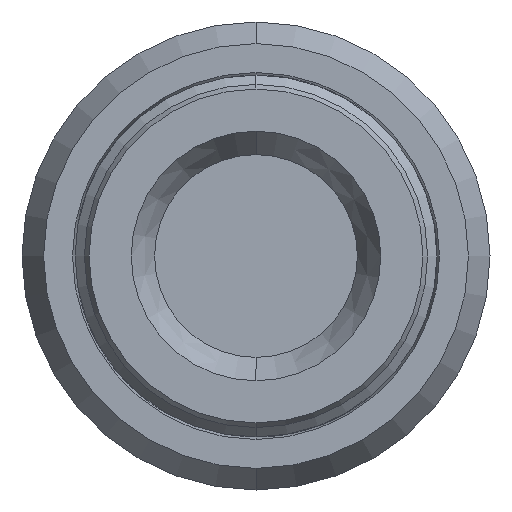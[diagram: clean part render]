
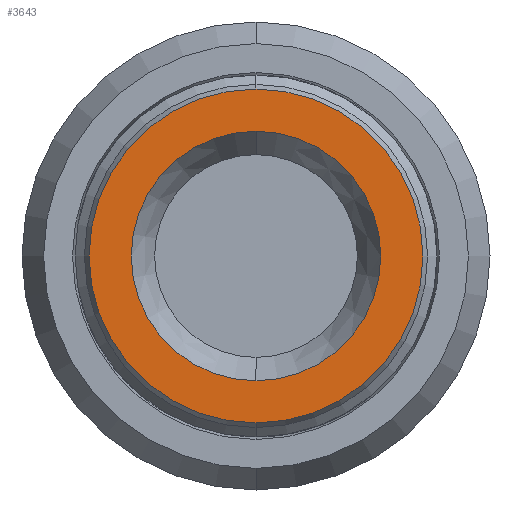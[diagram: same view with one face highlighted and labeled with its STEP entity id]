
A CAD part, front view. The second image highlights one B-rep face of the part: STEP entity #3643.
In plain terms, the highlighted planar face has unit normal (0, -1, 0).
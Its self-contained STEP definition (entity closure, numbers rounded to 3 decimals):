
#78 = ORIENTED_EDGE ( 'NONE', *, *, #3634, .T. ) ;
#193 = VERTEX_POINT ( 'NONE', #1052 ) ;
#532 = ORIENTED_EDGE ( 'NONE', *, *, #1355, .T. ) ;
#546 = AXIS2_PLACEMENT_3D ( 'NONE', #921, #917, #912 ) ;
#761 = AXIS2_PLACEMENT_3D ( 'NONE', #1524, #1523, #1518 ) ;
#912 = DIRECTION ( 'NONE',  ( 0., 0., -1. ) ) ;
#917 = DIRECTION ( 'NONE',  ( 0., 1., 0. ) ) ;
#921 = CARTESIAN_POINT ( 'NONE',  ( 0., -104.9, 0. ) ) ;
#946 = VERTEX_POINT ( 'NONE', #2633 ) ;
#1052 = CARTESIAN_POINT ( 'NONE',  ( 0., -104.9, 26.75 ) ) ;
#1185 = AXIS2_PLACEMENT_3D ( 'NONE', #3613, #3600, #3592 ) ;
#1355 = EDGE_CURVE ( 'NONE', #946, #2078, #1689, .T. ) ;
#1518 = DIRECTION ( 'NONE',  ( 0., 0., -1. ) ) ;
#1523 = DIRECTION ( 'NONE',  ( 0., 1., 0. ) ) ;
#1524 = CARTESIAN_POINT ( 'NONE',  ( 0., -104.9, 0. ) ) ;
#1572 = ORIENTED_EDGE ( 'NONE', *, *, #3903, .F. ) ;
#1578 = DIRECTION ( 'NONE',  ( 0., 0., -1. ) ) ;
#1584 = DIRECTION ( 'NONE',  ( 0., 1., 0. ) ) ;
#1592 = CARTESIAN_POINT ( 'NONE',  ( 0., -104.9, 0. ) ) ;
#1595 = PLANE ( 'NONE',  #761 ) ;
#1613 = EDGE_LOOP ( 'NONE', ( #78, #532 ) ) ;
#1622 = CARTESIAN_POINT ( 'NONE',  ( 0., -104.9, 20. ) ) ;
#1689 = CIRCLE ( 'NONE', #2420, 20. ) ;
#1697 = CARTESIAN_POINT ( 'NONE',  ( 0., -104.9, -26.75 ) ) ;
#1717 = CIRCLE ( 'NONE', #546, 26.75 ) ;
#1902 = DIRECTION ( 'NONE',  ( 0., 0., -1. ) ) ;
#1915 = DIRECTION ( 'NONE',  ( 0., 1., 0. ) ) ;
#1921 = CARTESIAN_POINT ( 'NONE',  ( 0., -104.9, 0. ) ) ;
#2054 = FACE_OUTER_BOUND ( 'NONE', #2261, .T. ) ;
#2078 = VERTEX_POINT ( 'NONE', #1622 ) ;
#2082 = CIRCLE ( 'NONE', #2659, 20. ) ;
#2097 = FACE_BOUND ( 'NONE', #1613, .T. ) ;
#2261 = EDGE_LOOP ( 'NONE', ( #2708, #1572 ) ) ;
#2420 = AXIS2_PLACEMENT_3D ( 'NONE', #1921, #1915, #1902 ) ;
#2633 = CARTESIAN_POINT ( 'NONE',  ( 0., -104.9, -20. ) ) ;
#2659 = AXIS2_PLACEMENT_3D ( 'NONE', #1592, #1584, #1578 ) ;
#2708 = ORIENTED_EDGE ( 'NONE', *, *, #2716, .F. ) ;
#2716 = EDGE_CURVE ( 'NONE', #3604, #193, #3828, .T. ) ;
#3592 = DIRECTION ( 'NONE',  ( 0., 0., -1. ) ) ;
#3600 = DIRECTION ( 'NONE',  ( 0., 1., 0. ) ) ;
#3604 = VERTEX_POINT ( 'NONE', #1697 ) ;
#3613 = CARTESIAN_POINT ( 'NONE',  ( 0., -104.9, 0. ) ) ;
#3634 = EDGE_CURVE ( 'NONE', #2078, #946, #2082, .T. ) ;
#3643 = ADVANCED_FACE ( 'NONE', ( #2097, #2054 ), #1595, .F. ) ;
#3828 = CIRCLE ( 'NONE', #1185, 26.75 ) ;
#3903 = EDGE_CURVE ( 'NONE', #193, #3604, #1717, .T. ) ;
